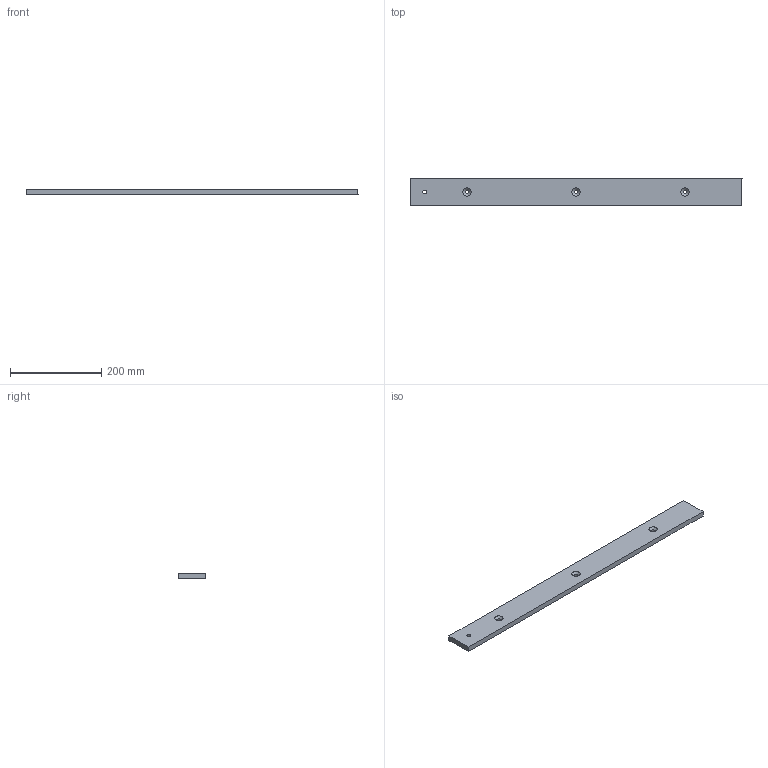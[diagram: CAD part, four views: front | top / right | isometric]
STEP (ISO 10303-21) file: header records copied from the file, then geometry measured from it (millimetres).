
FILE_DESCRIPTION(/* description */ (''),/* implementation_level */ '2;1');
FILE_NAME(/* name */ 'Pos158-Strip 60x12-Aluminium-2st',/* time_stamp */ '2024-08-06T11:49:44+02:00',/* author */ (''),/* organization */ (''),/* preprocessor_version */ 'ST-DEVELOPER v16.5',/* originating_system */ 'HiCAD 2024 2901.2 Build 361',/* authorisation */ '');
FILE_SCHEMA (('AUTOMOTIVE_DESIGN { 1 0 10303 214 1 1 1 1 }'));
Length unit declared in the file: millimetre
Products named in the file (1): Pos158-Strip 60x12-Aluminium-2st
Bounding box: 729 x 60 x 12 mm (x, y, z)
Volume: 520676 mm3; surface area: 107112.5 mm2
Topology: 1 solids, 1 shells, 13 faces, 36 edges, 28 vertices
Faces by surface type: plane 6, cylinder 4, cone 3
Full cylindrical faces by diameter (mm): 8.5 x1, 9 x3
Entity records: 604 total; most frequent: DIRECTION 60, CARTESIAN_POINT 58, PRESENTATION_STYLE_ASSIGNMENT 47, COLOUR_RGB 47, DRAUGHTING_PRE_DEFINED_CURVE_FONT 46, CURVE_STYLE 46, OVER_RIDING_STYLED_ITEM 46, ORIENTED_EDGE 46
